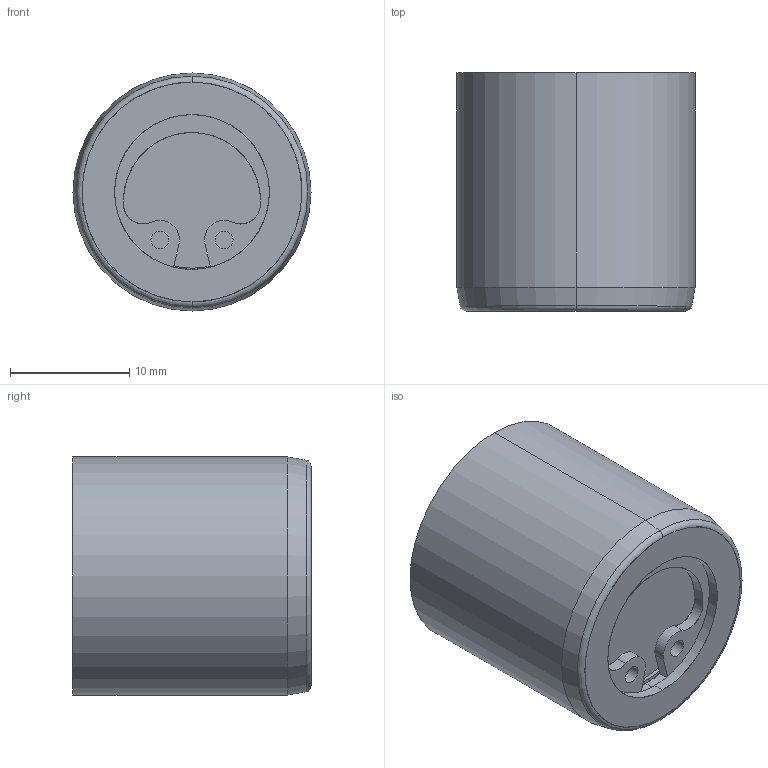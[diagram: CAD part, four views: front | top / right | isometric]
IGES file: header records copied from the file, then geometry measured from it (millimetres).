
Start section: START RECORD GO HERE.
Global section: file name: fv201720.igs; native system: DASSAULT SYSTEMES CATIA V5 R20 - www.3ds.com; preprocessor: CATIA Version 5 Release 20 ; author: Utente; organization: NB04-ASUS; date: 20201103.210732; units: millimetre
Bounding box: 20 x 20 x 20 mm (x, y, z)
Surface area: 4507.2 mm2 (no closed solid volume)
Topology: 0 solids, 0 shells, 157 faces, 732 edges, 732 vertices
Faces by surface type: revolution 88, plane 45, bspline 24
